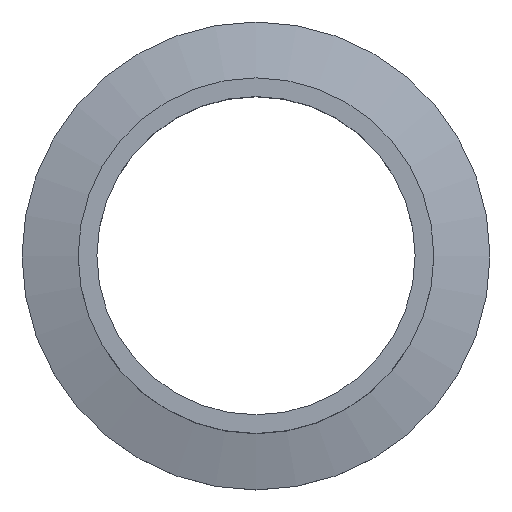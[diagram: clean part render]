
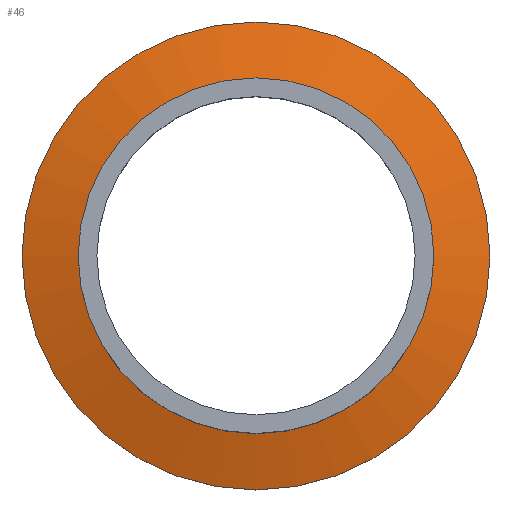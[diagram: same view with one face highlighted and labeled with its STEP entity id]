
A CAD part, top view. The second image highlights one B-rep face of the part: STEP entity #46.
In plain terms, the highlighted conical face has half-angle 75 degrees and reference radius 37.5 mm.
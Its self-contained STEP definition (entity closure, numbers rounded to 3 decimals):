
#46 = ADVANCED_FACE( '', ( #93, #94 ), #95, .T. );
#93 = FACE_BOUND( '', #132, .T. );
#94 = FACE_OUTER_BOUND( '', #133, .T. );
#95 = CONICAL_SURFACE( '', #134, 37.5, 1.309 );
#132 = EDGE_LOOP( '', ( #179 ) );
#133 = EDGE_LOOP( '', ( #180 ) );
#134 = AXIS2_PLACEMENT_3D( '', #181, #182, #183 );
#179 = ORIENTED_EDGE( '', *, *, #193, .F. );
#180 = ORIENTED_EDGE( '', *, *, #185, .T. );
#181 = CARTESIAN_POINT( '', ( 0., 0., 3. ) );
#182 = DIRECTION( '', ( 0., 0., -1. ) );
#183 = DIRECTION( '', ( -1., 0., 0. ) );
#185 = EDGE_CURVE( '', #201, #201, #202, .T. );
#193 = EDGE_CURVE( '', #214, #214, #215, .T. );
#201 = VERTEX_POINT( '', #225 );
#202 = CIRCLE( '', #226, 37.5 );
#214 = VERTEX_POINT( '', #238 );
#215 = CIRCLE( '', #239, 28.5 );
#225 = CARTESIAN_POINT( '', ( 37.5, 0., 3. ) );
#226 = AXIS2_PLACEMENT_3D( '', #248, #249, #250 );
#238 = CARTESIAN_POINT( '', ( 28.5, 0., 5.412 ) );
#239 = AXIS2_PLACEMENT_3D( '', #263, #264, #265 );
#248 = CARTESIAN_POINT( '', ( 0., 0., 3. ) );
#249 = DIRECTION( '', ( 0., 0., 1. ) );
#250 = DIRECTION( '', ( 1., 0., 0. ) );
#263 = CARTESIAN_POINT( '', ( 0., 0., 5.412 ) );
#264 = DIRECTION( '', ( 0., 0., 1. ) );
#265 = DIRECTION( '', ( 1., 0., 0. ) );
